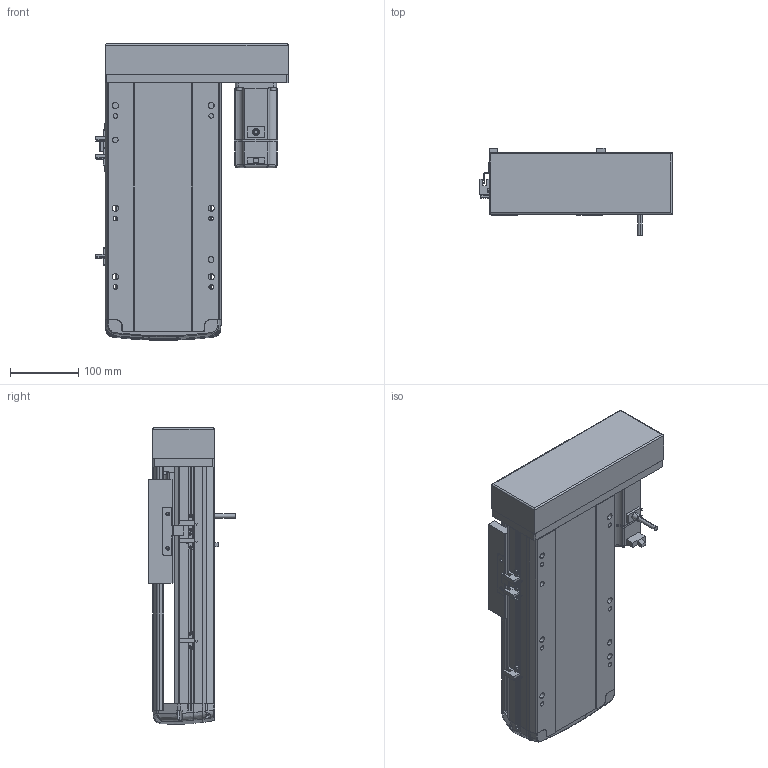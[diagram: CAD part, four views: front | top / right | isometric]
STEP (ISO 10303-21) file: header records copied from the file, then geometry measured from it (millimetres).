
FILE_DESCRIPTION (( 'STEP AP214' ), '1' );
FILE_NAME ('RTH17-XX-150-L-M40-C4.STEP', '2025-10-24T08:42:55', ( '' ), ( '' ), 'SwSTEP 2.0', 'SolidWorks 2018', '' );
FILE_SCHEMA (( 'AUTOMOTIVE_DESIGN' ));
Length unit declared in the file: millimetre
Products named in the file (10): N_RTH17-M-011底座^RTH17-XX-XX-L-M40-C4（方程式）; N_OMRON EE-SX672 換覜ん^RTH17-XX-XX-L-M40-C4ㄗ源最宒ㄘ; N_RTH17-M-007上盖^RTH17-XX-XX-L-M40-C4（方程式）; N_RTH-BL-012 感应片(外置)^RTH17-XX-XX-L-M40-C4（方程式）; N_RTH17-E-004丝杆螺母连接座^RTH17-XX-XX-L-M40-C4（方程式）; RTH17-XX-150-L-M40-C4; N_RTH17-L-018盖子^RTH17-XX-XX-L-M40-C4（方程式）; N_RTH17-L-008-P40电机安装板左转折^RTH17-XX-XX-L-M40-C4（方程式）; N_RTH17-GY-001P^RTH17-XX-XX-L-M40-C4（方程式）; N_M40^RTH17-XX-XX-L-M40-C4（方程式）
Assembly tree (11 placements, depth 2):
  RTH17-XX-150-L-M40-C4
    N_RTH17-M-011底座^RTH17-XX-XX-L-M40-C4（方程式）
    N_RTH17-M-007上盖^RTH17-XX-XX-L-M40-C4（方程式）
    N_M40^RTH17-XX-XX-L-M40-C4（方程式）
    N_OMRON EE-SX672 換覜ん^RTH17-XX-XX-L-M40-C4ㄗ源最宒ㄘ  x3
    N_RTH-BL-012 感应片(外置)^RTH17-XX-XX-L-M40-C4（方程式）
    N_RTH17-L-008-P40电机安装板左转折^RTH17-XX-XX-L-M40-C4（方程式）
    N_RTH17-L-018盖子^RTH17-XX-XX-L-M40-C4（方程式）
    N_RTH17-E-004丝杆螺母连接座^RTH17-XX-XX-L-M40-C4（方程式）
    N_RTH17-GY-001P^RTH17-XX-XX-L-M40-C4（方程式）
Bounding box: 281 x 127 x 433.07 mm (x, y, z)
Volume: 4972033.3 mm3; surface area: 656235.5 mm2
Topology: 13 solids, 15 shells, 1615 faces, 4467 edges, 2910 vertices
Faces by surface type: plane 829, cylinder 419, bspline 330, cone 28, torus 9
Entity records: 46390 total; most frequent: CARTESIAN_POINT 18873, ORIENTED_EDGE 5958, DIRECTION 4909, EDGE_CURVE 2983, VERTEX_POINT 1946, VECTOR 1711, LINE 1711, AXIS2_PLACEMENT_3D 1599
